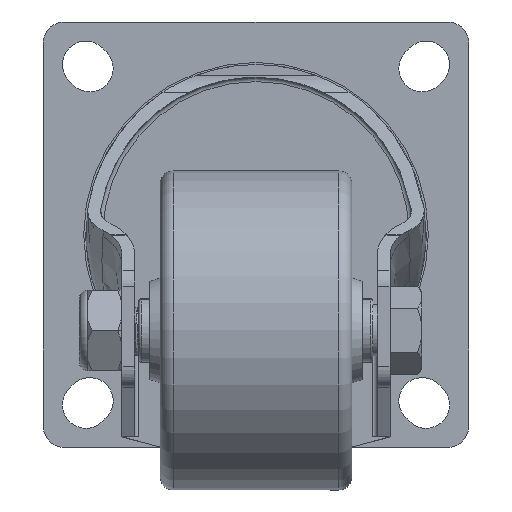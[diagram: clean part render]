
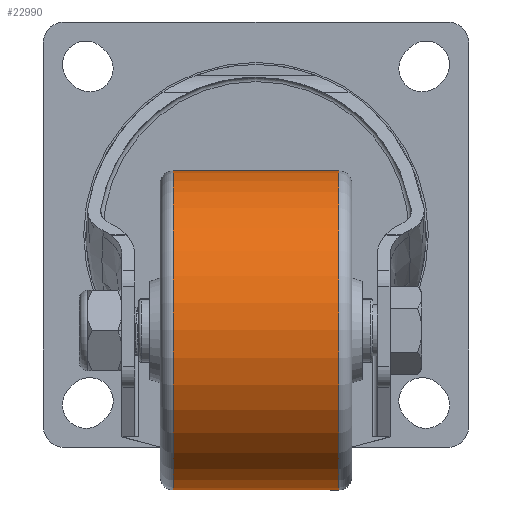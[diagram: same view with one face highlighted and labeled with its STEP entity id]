
A CAD part, front view. The second image highlights one B-rep face of the part: STEP entity #22990.
In plain terms, the highlighted cylindrical face has radius 37.5 mm (diameter 75 mm), a partial arc.
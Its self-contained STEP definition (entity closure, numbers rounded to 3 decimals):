
#291 = ORIENTED_EDGE ( 'NONE', *, *, #14733, .T. ) ;
#630 = DIRECTION ( 'NONE',  ( 0., -1., 0. ) ) ;
#2213 = CARTESIAN_POINT ( 'NONE',  ( 0., 0., 37.5 ) ) ;
#2267 = CARTESIAN_POINT ( 'NONE',  ( 0., 19.5, 0. ) ) ;
#2819 = AXIS2_PLACEMENT_3D ( 'NONE', #2267, #8197, #15384 ) ;
#2859 = EDGE_LOOP ( 'NONE', ( #21985, #15271, #8231, #291 ) ) ;
#3654 = EDGE_CURVE ( 'NONE', #21827, #10820, #19213, .T. ) ;
#4203 = VECTOR ( 'NONE', #10448, 1000. ) ;
#5944 = DIRECTION ( 'NONE',  ( 0., 1., 0. ) ) ;
#8058 = CARTESIAN_POINT ( 'NONE',  ( 0., 0., 0. ) ) ;
#8181 = DIRECTION ( 'NONE',  ( 0., 0., -1. ) ) ;
#8197 = DIRECTION ( 'NONE',  ( 0., -1., 0. ) ) ;
#8231 = ORIENTED_EDGE ( 'NONE', *, *, #23709, .T. ) ;
#9905 = CYLINDRICAL_SURFACE ( 'NONE', #10145, 37.5 ) ;
#10145 = AXIS2_PLACEMENT_3D ( 'NONE', #8058, #630, #8181 ) ;
#10266 = FACE_OUTER_BOUND ( 'NONE', #2859, .T. ) ;
#10448 = DIRECTION ( 'NONE',  ( 0., -1., 0. ) ) ;
#10820 = VERTEX_POINT ( 'NONE', #13985 ) ;
#11169 = VECTOR ( 'NONE', #20722, 1000. ) ;
#11240 = EDGE_CURVE ( 'NONE', #21827, #23593, #12316, .T. ) ;
#11598 = CARTESIAN_POINT ( 'NONE',  ( 0., 19.5, -37.5 ) ) ;
#12316 = CIRCLE ( 'NONE', #2819, 37.5 ) ;
#12803 = AXIS2_PLACEMENT_3D ( 'NONE', #16997, #5944, #17120 ) ;
#13985 = CARTESIAN_POINT ( 'NONE',  ( 0., -19.5, 37.5 ) ) ;
#14733 = EDGE_CURVE ( 'NONE', #17432, #10820, #22361, .T. ) ;
#15271 = ORIENTED_EDGE ( 'NONE', *, *, #11240, .T. ) ;
#15384 = DIRECTION ( 'NONE',  ( 0., 0., 1. ) ) ;
#15555 = LINE ( 'NONE', #16044, #4203 ) ;
#16044 = CARTESIAN_POINT ( 'NONE',  ( 0., 0., -37.5 ) ) ;
#16997 = CARTESIAN_POINT ( 'NONE',  ( 0., -19.5, 0. ) ) ;
#17120 = DIRECTION ( 'NONE',  ( 0., 0., -1. ) ) ;
#17432 = VERTEX_POINT ( 'NONE', #22492 ) ;
#19213 = LINE ( 'NONE', #2213, #11169 ) ;
#19945 = CARTESIAN_POINT ( 'NONE',  ( 0., 19.5, 37.5 ) ) ;
#20722 = DIRECTION ( 'NONE',  ( 0., -1., 0. ) ) ;
#21827 = VERTEX_POINT ( 'NONE', #19945 ) ;
#21985 = ORIENTED_EDGE ( 'NONE', *, *, #3654, .F. ) ;
#22361 = CIRCLE ( 'NONE', #12803, 37.5 ) ;
#22492 = CARTESIAN_POINT ( 'NONE',  ( 0., -19.5, -37.5 ) ) ;
#22990 = ADVANCED_FACE ( 'NONE', ( #10266 ), #9905, .T. ) ;
#23593 = VERTEX_POINT ( 'NONE', #11598 ) ;
#23709 = EDGE_CURVE ( 'NONE', #23593, #17432, #15555, .T. ) ;
